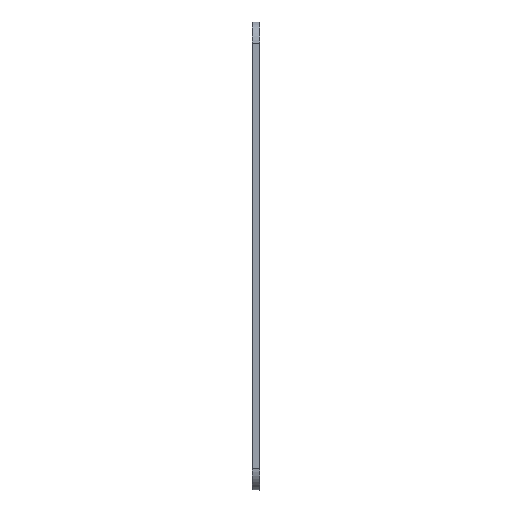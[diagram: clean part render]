
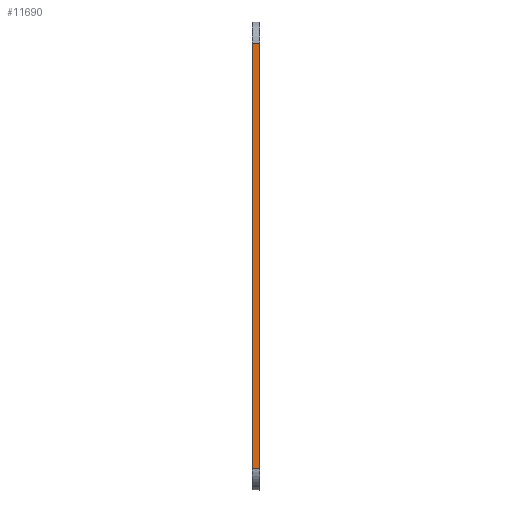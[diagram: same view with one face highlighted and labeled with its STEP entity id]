
A CAD part, left-side view. The second image highlights one B-rep face of the part: STEP entity #11690.
In plain terms, the highlighted planar face has unit normal (-1, 0, 0).
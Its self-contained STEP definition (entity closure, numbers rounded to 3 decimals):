
#88 = VECTOR ( 'NONE', #13978, 1000. ) ;
#1218 = ORIENTED_EDGE ( 'NONE', *, *, #11699, .T. ) ;
#2068 = ORIENTED_EDGE ( 'NONE', *, *, #6671, .T. ) ;
#2248 = ORIENTED_EDGE ( 'NONE', *, *, #3245, .F. ) ;
#2745 = CARTESIAN_POINT ( 'NONE',  ( -114., 1., 61. ) ) ;
#3245 = EDGE_CURVE ( 'NONE', #5254, #4996, #5439, .T. ) ;
#3763 = CARTESIAN_POINT ( 'NONE',  ( -114., 1., 61. ) ) ;
#4996 = VERTEX_POINT ( 'NONE', #7222 ) ;
#5110 = VERTEX_POINT ( 'NONE', #14045 ) ;
#5254 = VERTEX_POINT ( 'NONE', #6847 ) ;
#5439 = LINE ( 'NONE', #2745, #88 ) ;
#5624 = VECTOR ( 'NONE', #11960, 1000. ) ;
#5746 = VECTOR ( 'NONE', #6211, 1000. ) ;
#6211 = DIRECTION ( 'NONE',  ( 0., -1., 0. ) ) ;
#6549 = DIRECTION ( 'NONE',  ( 0., -1., 0. ) ) ;
#6671 = EDGE_CURVE ( 'NONE', #5254, #13114, #15293, .T. ) ;
#6847 = CARTESIAN_POINT ( 'NONE',  ( -114., 1., -59. ) ) ;
#7222 = CARTESIAN_POINT ( 'NONE',  ( -114., 1., 61. ) ) ;
#7988 = LINE ( 'NONE', #8083, #14253 ) ;
#8083 = CARTESIAN_POINT ( 'NONE',  ( -114., -1., 61. ) ) ;
#10343 = LINE ( 'NONE', #14384, #5746 ) ;
#10586 = FACE_OUTER_BOUND ( 'NONE', #11271, .T. ) ;
#11271 = EDGE_LOOP ( 'NONE', ( #1218, #17595, #2248, #2068 ) ) ;
#11690 = ADVANCED_FACE ( 'NONE', ( #10586 ), #16066, .F. ) ;
#11699 = EDGE_CURVE ( 'NONE', #13114, #5110, #7988, .T. ) ;
#11960 = DIRECTION ( 'NONE',  ( 0., -1., 0. ) ) ;
#13114 = VERTEX_POINT ( 'NONE', #15304 ) ;
#13560 = DIRECTION ( 'NONE',  ( 0., 0., 1. ) ) ;
#13949 = CARTESIAN_POINT ( 'NONE',  ( -114., 1., -59. ) ) ;
#13978 = DIRECTION ( 'NONE',  ( 0., 0., 1. ) ) ;
#14045 = CARTESIAN_POINT ( 'NONE',  ( -114., -1., 61. ) ) ;
#14253 = VECTOR ( 'NONE', #13560, 1000. ) ;
#14384 = CARTESIAN_POINT ( 'NONE',  ( -114., 1., 61. ) ) ;
#14732 = DIRECTION ( 'NONE',  ( 1., 0., 0. ) ) ;
#15293 = LINE ( 'NONE', #13949, #5624 ) ;
#15304 = CARTESIAN_POINT ( 'NONE',  ( -114., -1., -59. ) ) ;
#15460 = EDGE_CURVE ( 'NONE', #4996, #5110, #10343, .T. ) ;
#16066 = PLANE ( 'NONE',  #16824 ) ;
#16824 = AXIS2_PLACEMENT_3D ( 'NONE', #3763, #14732, #6549 ) ;
#17595 = ORIENTED_EDGE ( 'NONE', *, *, #15460, .F. ) ;
